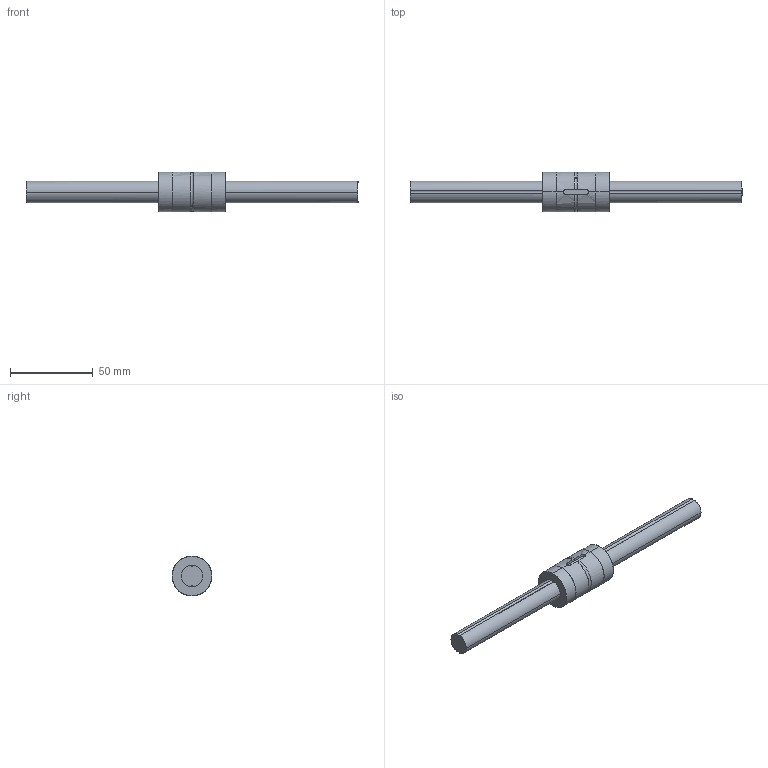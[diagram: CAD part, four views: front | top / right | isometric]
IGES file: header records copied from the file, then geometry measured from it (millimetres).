
Global section: file name: No Iges File Name specified; native system: AutoDesk Inventor R11.0; preprocessor: AutoDesk Inventor Iges Exporter R11.0; author: No Author specified; organization: No Organization specified; date: 20150223.132706; units: millimetre
Bounding box: 200 x 24 x 24 mm (x, y, z)
Surface area: 13930.8 mm2 (no closed solid volume)
Topology: 0 solids, 0 shells, 36 faces, 282 edges, 282 vertices
Faces by surface type: bspline 36
